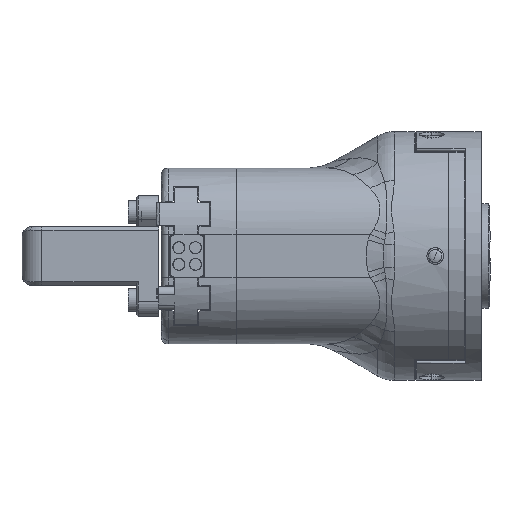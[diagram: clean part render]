
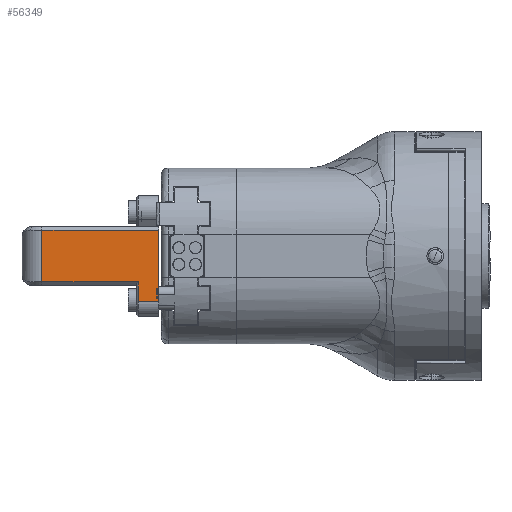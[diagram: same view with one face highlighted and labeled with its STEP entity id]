
A CAD part, left-side view. The second image highlights one B-rep face of the part: STEP entity #56349.
In plain terms, the highlighted planar face has unit normal (-1, 0, 0) as drawn and (0, 0, 1) by its records, which use the part's own axes.
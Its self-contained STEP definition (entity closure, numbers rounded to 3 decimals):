
#2150 = DIRECTION ( 'NONE',  ( 0., -1., 0. ) ) ;
#3694 = VECTOR ( 'NONE', #60035, 1000. ) ;
#4173 = VECTOR ( 'NONE', #49075, 1000. ) ;
#5632 = VERTEX_POINT ( 'NONE', #39041 ) ;
#5968 = CARTESIAN_POINT ( 'NONE',  ( -299.489, 3.722, 231.003 ) ) ;
#6359 = CARTESIAN_POINT ( 'NONE',  ( -299.489, 32.222, 231.003 ) ) ;
#8065 = VECTOR ( 'NONE', #2150, 1000. ) ;
#10468 = ORIENTED_EDGE ( 'NONE', *, *, #29672, .T. ) ;
#10805 = DIRECTION ( 'NONE',  ( -1., 0., 0. ) ) ;
#11295 = EDGE_CURVE ( 'NONE', #64596, #58354, #69075, .T. ) ;
#14167 = CARTESIAN_POINT ( 'NONE',  ( -315.089, 3.722, 231.003 ) ) ;
#20196 = EDGE_CURVE ( 'NONE', #5632, #29599, #33401, .T. ) ;
#20886 = AXIS2_PLACEMENT_3D ( 'NONE', #43926, #64747, #26718 ) ;
#21080 = LINE ( 'NONE', #5968, #4173 ) ;
#23127 = CARTESIAN_POINT ( 'NONE',  ( -315.089, 3.222, 231.003 ) ) ;
#25679 = ORIENTED_EDGE ( 'NONE', *, *, #20196, .T. ) ;
#26718 = DIRECTION ( 'NONE',  ( -1., 0., 0. ) ) ;
#26995 = LINE ( 'NONE', #48875, #69161 ) ;
#28087 = EDGE_LOOP ( 'NONE', ( #39477, #62759, #25679, #35201, #68578, #10468 ) ) ;
#29599 = VERTEX_POINT ( 'NONE', #36042 ) ;
#29672 = EDGE_CURVE ( 'NONE', #47667, #64596, #69752, .T. ) ;
#30103 = EDGE_CURVE ( 'NONE', #58354, #5632, #61011, .T. ) ;
#32449 = VECTOR ( 'NONE', #43466, 1000. ) ;
#33391 = CARTESIAN_POINT ( 'NONE',  ( -320.989, 3.222, 231.003 ) ) ;
#33401 = LINE ( 'NONE', #38813, #8065 ) ;
#35201 = ORIENTED_EDGE ( 'NONE', *, *, #60457, .F. ) ;
#36042 = CARTESIAN_POINT ( 'NONE',  ( -320.989, -2.978, 231.003 ) ) ;
#36880 = VERTEX_POINT ( 'NONE', #49599 ) ;
#38813 = CARTESIAN_POINT ( 'NONE',  ( -320.989, 3.722, 231.003 ) ) ;
#39041 = CARTESIAN_POINT ( 'NONE',  ( -320.989, 3.222, 231.003 ) ) ;
#39477 = ORIENTED_EDGE ( 'NONE', *, *, #11295, .T. ) ;
#40775 = CARTESIAN_POINT ( 'NONE',  ( -315.089, 32.222, 231.003 ) ) ;
#43466 = DIRECTION ( 'NONE',  ( -1., 0., 0. ) ) ;
#43926 = CARTESIAN_POINT ( 'NONE',  ( -325.489, 3.722, 231.003 ) ) ;
#45107 = EDGE_CURVE ( 'NONE', #36880, #47667, #21080, .T. ) ;
#47667 = VERTEX_POINT ( 'NONE', #6359 ) ;
#48251 = FACE_OUTER_BOUND ( 'NONE', #28087, .T. ) ;
#48875 = CARTESIAN_POINT ( 'NONE',  ( -325.489, -2.978, 231.003 ) ) ;
#49075 = DIRECTION ( 'NONE',  ( 0., 1., 0. ) ) ;
#49599 = CARTESIAN_POINT ( 'NONE',  ( -299.489, -2.978, 231.003 ) ) ;
#52237 = DIRECTION ( 'NONE',  ( 0., -1., 0. ) ) ;
#56349 = ADVANCED_FACE ( 'NONE', ( #48251 ), #70136, .F. ) ;
#58354 = VERTEX_POINT ( 'NONE', #23127 ) ;
#58624 = CARTESIAN_POINT ( 'NONE',  ( -285.089, 32.222, 231.003 ) ) ;
#60035 = DIRECTION ( 'NONE',  ( -1., 0., 0. ) ) ;
#60457 = EDGE_CURVE ( 'NONE', #36880, #29599, #26995, .T. ) ;
#61011 = LINE ( 'NONE', #33391, #32449 ) ;
#62759 = ORIENTED_EDGE ( 'NONE', *, *, #30103, .T. ) ;
#64596 = VERTEX_POINT ( 'NONE', #40775 ) ;
#64747 = DIRECTION ( 'NONE',  ( 0., 0., -1. ) ) ;
#68578 = ORIENTED_EDGE ( 'NONE', *, *, #45107, .T. ) ;
#68591 = VECTOR ( 'NONE', #52237, 1000. ) ;
#69075 = LINE ( 'NONE', #14167, #68591 ) ;
#69161 = VECTOR ( 'NONE', #10805, 1000. ) ;
#69752 = LINE ( 'NONE', #58624, #3694 ) ;
#70136 = PLANE ( 'NONE',  #20886 ) ;
